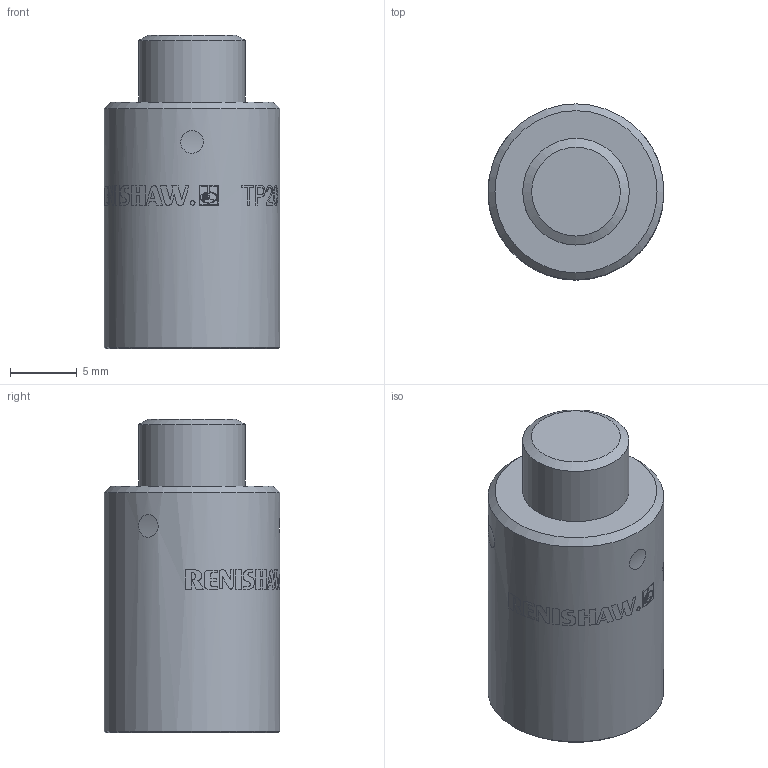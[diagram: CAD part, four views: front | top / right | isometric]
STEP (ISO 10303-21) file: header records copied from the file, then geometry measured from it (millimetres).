
FILE_DESCRIPTION(/* description */ (''),/* implementation_level */ '2;1');
FILE_NAME(/* name */ 'LA-1371-0145#-D.stp',/* time_stamp */ '2012-09-07T10:48:21+01:00',/* author */ (''),/* organization */ (''),/* preprocessor_version */ 'ST-DEVELOPER v11',/* originating_system */ 'SIEMENS PLM Software NX 7.5',/* authorisation */ '');
FILE_SCHEMA (('AUTOMOTIVE_DESIGN { 1 0 10303 214 1 1 1 1 }'));
Length unit declared in the file: millimetre
Products named in the file (1): rt13371Ayv7i
Bounding box: 13.2 x 13.2 x 23.5 mm (x, y, z)
Volume: 2565.2 mm3; surface area: 1209.7 mm2
Topology: 1 solids, 1 shells, 39 faces, 237 edges, 230 vertices
Faces by surface type: cylinder 22, plane 14, cone 3
Full cylindrical faces by diameter (mm): 8 x1, 12.7 x1, 13.2 x1
Entity records: 2977 total; most frequent: CARTESIAN_POINT 1067, ORIENTED_EDGE 452, VERTEX_POINT 226, EDGE_CURVE 226, B_SPLINE_CURVE_WITH_KNOTS 178, DIRECTION 156, EDGE_LOOP 76, AXIS2_PLACEMENT_3D 68
